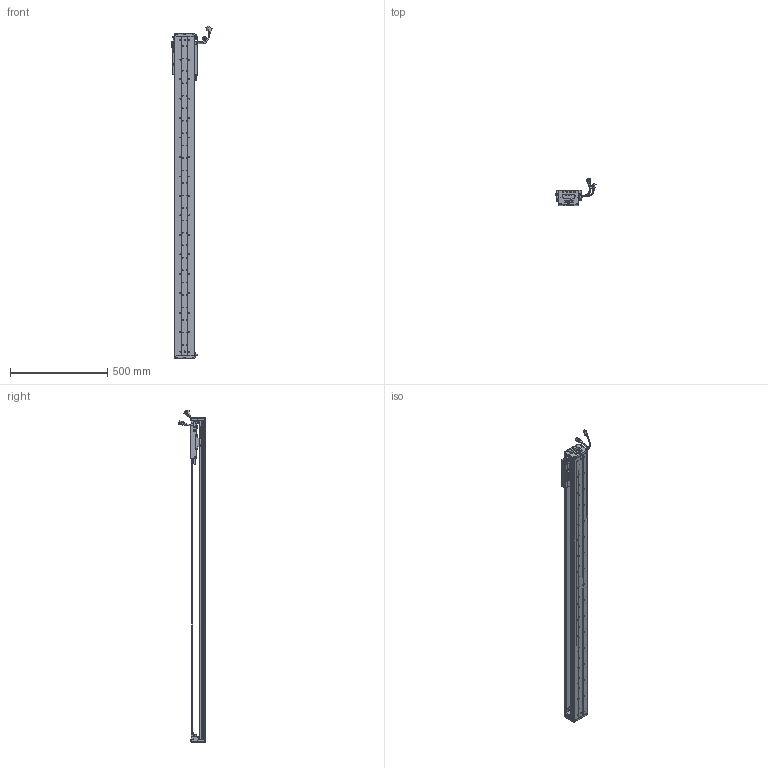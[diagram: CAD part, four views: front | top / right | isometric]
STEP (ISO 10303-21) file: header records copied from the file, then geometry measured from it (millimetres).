
FILE_DESCRIPTION (( 'STEP AP203' ), '1' );
FILE_NAME ('Z2-RY100D-1-L500-B-K.SLDASM_1400.step', '2021-05-17T02:36:21', ( '盈信电脑' ), ( '东莞市道滘镇水果街19号' ), 'SwSTEP 2.0', 'SolidWorks 2016', '' );
FILE_SCHEMA (( 'CONFIG_CONTROL_DESIGN' ));
Length unit declared in the file: millimetre
Products named in the file (36): SCALE-Part-1; SCREW-M1.7-1; SEAL-Part-1; HARNESS-Part-1; 140雄赽晤鎢ん堤盄; SCREW-M1.6; 140蚥薯蝶輸; SCALE; SEAL; COVER; SHIELDPLATE; Z-100詩湍傷裔啣; 100-Z-臏賑輸盄裔(21遴); Z2-RY100D-1-L500-B-K.SLDASM_1400; 榋妏寠巭燃_暯_M2_2; Z-RY100D覜茼んえ; COVER-Part-1; Z2-RY100铝滑块（21款）; SCREW-M1.7; SCALE-Part-2; PBU_SHEET; Z2-RY100D-500-倰第菁釱_1400; 覜茼ん672; Z2-RY100-L500詩湍90mm遵_1400; HARNESS; HOLDER0; LABEL-Part-1; SCREW-M1.6-2; Z-RY100D詩湍奻揤裔; 080黍杅芛假蚾釱21遴; PSLH080_PSLF2; SCREW-M1.6-3; SCREW-M1.6-1; LABEL; Z-RY100D詩湍狟揤裔; HARNESS-Part-2
Assembly tree (43 placements, depth 4):
  Z2-RY100D-1-L500-B-K.SLDASM_1400
    Z2-RY100D-500-倰第菁釱_1400
    Z2-RY100铝滑块（21款）
    PSLH080_PSLF2
      SCALE
        SCALE-Part-1
        SCALE-Part-2
      HARNESS
        HARNESS-Part-1
        HARNESS-Part-2
      LABEL
        LABEL-Part-1
      COVER
        COVER-Part-1
      SEAL
        SEAL-Part-1
      榋妏寠巭燃_暯_M2_2
      SHIELDPLATE
      SCREW-M1.7
      SCREW-M1.7-1
      PBU_SHEET
      SCREW-M1.6
      SCREW-M1.6-1
      SCREW-M1.6-2
      SCREW-M1.6-3
      HOLDER0
    080黍杅芛假蚾釱21遴
    Z-100詩湍傷裔啣  x2
    140蚥薯蝶輸  x2
    覜茼ん672  x3
    Z-RY100D覜茼んえ  x3
    100-Z-臏賑輸盄裔(21遴)
    140雄赽晤鎢ん堤盄
    Z2-RY100-L500詩湍90mm遵_1400
    Z-RY100D詩湍狟揤裔  x2
    Z-RY100D詩湍奻揤裔  x2
Bounding box: 205.83 x 136.11 x 1705.43 mm (x, y, z)
Volume: 3248679.3 mm3; surface area: 1276217.9 mm2
Topology: 38 solids, 38 shells, 2732 faces, 7299 edges, 4640 vertices
Faces by surface type: cylinder 1246, plane 1146, cone 218, torus 69, bspline 53
Entity records: 76343 total; most frequent: CARTESIAN_POINT 16084, DIRECTION 12163, ORIENTED_EDGE 11494, EDGE_CURVE 5747, AXIS2_PLACEMENT_3D 4511, VERTEX_POINT 3708, VECTOR 3141, LINE 3141
